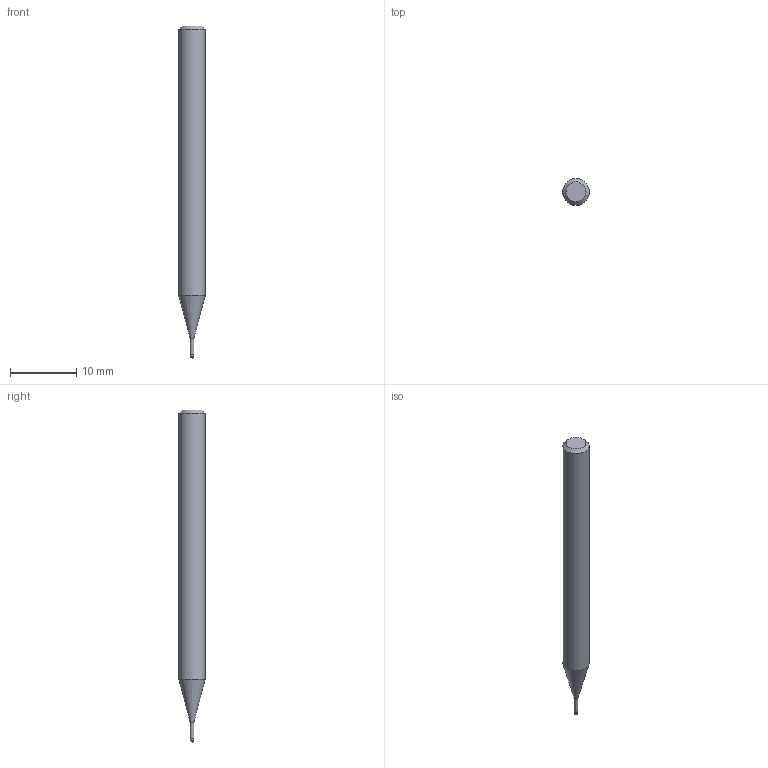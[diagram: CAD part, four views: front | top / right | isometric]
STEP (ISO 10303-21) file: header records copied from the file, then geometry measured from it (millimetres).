
FILE_DESCRIPTION((''),'2;1');
FILE_NAME('C:\Users\nsx150\AppData\Local\Temp\Mastercam 2021\LJSIDMOTM8\TEMP.step','2021-08-03T14:23:55',(''),(''),'STEP Write','Mastercam 2021 ... CNC Software, Inc.','');
FILE_SCHEMA(('AUTOMOTIVE_DESIGN'));
Length unit declared in the file: millimetre
Products named in the file (1): None
Bounding box: 4 x 4 x 50 mm (x, y, z)
Volume: 540.4 mm3; surface area: 572 mm2
Topology: 2 solids, 2 shells, 9 faces, 14 edges, 8 vertices
Faces by surface type: plane 3, cylinder 3, cone 2, sphere 1
Full cylindrical faces by diameter (mm): 0.56 x1, 0.6 x1, 4 x1
Entity records: 211 total; most frequent: DIRECTION 36, CARTESIAN_POINT 25, AXIS2_PLACEMENT_3D 18, ORIENTED_EDGE 14, EDGE_LOOP 14, STYLED_ITEM 12, ADVANCED_FACE 9, FACE_BOUND 8
